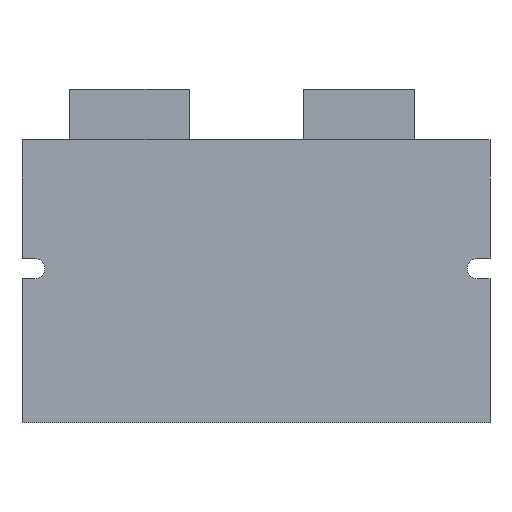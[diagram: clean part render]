
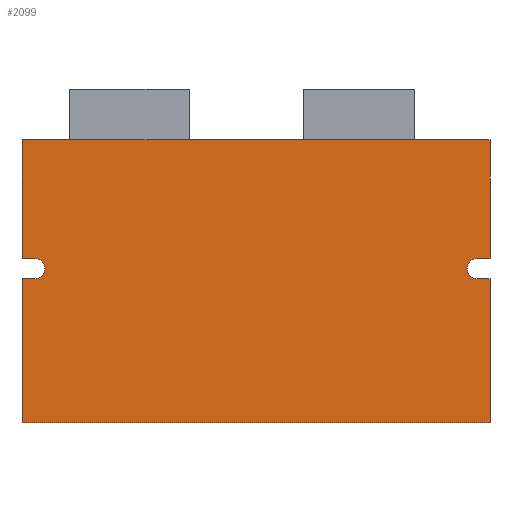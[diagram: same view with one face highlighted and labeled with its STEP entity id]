
A CAD part, front view. The second image highlights one B-rep face of the part: STEP entity #2099.
In plain terms, the highlighted planar face has unit normal (0, -1, 0).
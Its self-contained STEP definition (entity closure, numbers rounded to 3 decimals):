
#12 = ORIENTED_EDGE ( 'NONE', *, *, #531, .F. ) ;
#83 = LINE ( 'NONE', #3169, #863 ) ;
#182 = LINE ( 'NONE', #1688, #2346 ) ;
#238 = CARTESIAN_POINT ( 'NONE',  ( 0., 0., 0. ) ) ;
#266 = VECTOR ( 'NONE', #2094, 1000. ) ;
#279 = CARTESIAN_POINT ( 'NONE',  ( 0., 0., -27.5 ) ) ;
#358 = DIRECTION ( 'NONE',  ( 0., 1., 0. ) ) ;
#372 = VERTEX_POINT ( 'NONE', #1035 ) ;
#374 = ORIENTED_EDGE ( 'NONE', *, *, #3136, .F. ) ;
#386 = AXIS2_PLACEMENT_3D ( 'NONE', #584, #3521, #1774 ) ;
#449 = DIRECTION ( 'NONE',  ( 0., 0., -1. ) ) ;
#531 = EDGE_CURVE ( 'NONE', #556, #3328, #1470, .T. ) ;
#556 = VERTEX_POINT ( 'NONE', #2899 ) ;
#584 = CARTESIAN_POINT ( 'NONE',  ( 0., 0., 0. ) ) ;
#585 = EDGE_CURVE ( 'NONE', #3546, #372, #2163, .T. ) ;
#611 = VERTEX_POINT ( 'NONE', #279 ) ;
#685 = VECTOR ( 'NONE', #1423, 1000. ) ;
#779 = VECTOR ( 'NONE', #3504, 1000. ) ;
#827 = ORIENTED_EDGE ( 'NONE', *, *, #2425, .T. ) ;
#863 = VECTOR ( 'NONE', #1410, 1000. ) ;
#867 = CARTESIAN_POINT ( 'NONE',  ( 0., 0., -23.5 ) ) ;
#907 = EDGE_CURVE ( 'NONE', #1565, #2455, #2796, .T. ) ;
#968 = EDGE_CURVE ( 'NONE', #2455, #372, #2345, .T. ) ;
#1035 = CARTESIAN_POINT ( 'NONE',  ( 92.6, 0., -23.5 ) ) ;
#1224 = CARTESIAN_POINT ( 'NONE',  ( 92.6, 0., -27.5 ) ) ;
#1231 = VECTOR ( 'NONE', #2876, 1000. ) ;
#1257 = CARTESIAN_POINT ( 'NONE',  ( 2.5, 0., -27.5 ) ) ;
#1269 = LINE ( 'NONE', #2646, #2747 ) ;
#1309 = CARTESIAN_POINT ( 'NONE',  ( 92.6, 0., -27.5 ) ) ;
#1324 = VECTOR ( 'NONE', #449, 1000. ) ;
#1400 = CARTESIAN_POINT ( 'NONE',  ( 0., 0., -56. ) ) ;
#1409 = AXIS2_PLACEMENT_3D ( 'NONE', #1667, #3710, #1968 ) ;
#1410 = DIRECTION ( 'NONE',  ( -1., 0., 0. ) ) ;
#1423 = DIRECTION ( 'NONE',  ( -1., 0., 0. ) ) ;
#1469 = EDGE_CURVE ( 'NONE', #3328, #611, #1269, .T. ) ;
#1470 = LINE ( 'NONE', #3473, #685 ) ;
#1559 = VECTOR ( 'NONE', #2114, 1000. ) ;
#1565 = VERTEX_POINT ( 'NONE', #3286 ) ;
#1604 = DIRECTION ( 'NONE',  ( -1., 0., 0. ) ) ;
#1667 = CARTESIAN_POINT ( 'NONE',  ( 90.1, 0., -25.5 ) ) ;
#1680 = CARTESIAN_POINT ( 'NONE',  ( 92.6, 0., 0. ) ) ;
#1688 = CARTESIAN_POINT ( 'NONE',  ( 0., 0., -23.5 ) ) ;
#1690 = CARTESIAN_POINT ( 'NONE',  ( 90.1, 0., -27.5 ) ) ;
#1719 = DIRECTION ( 'NONE',  ( 1., 0., 0. ) ) ;
#1774 = DIRECTION ( 'NONE',  ( 0., 0., -1. ) ) ;
#1819 = ORIENTED_EDGE ( 'NONE', *, *, #3006, .T. ) ;
#1833 = CARTESIAN_POINT ( 'NONE',  ( 0., 0., 0. ) ) ;
#1851 = ORIENTED_EDGE ( 'NONE', *, *, #585, .T. ) ;
#1968 = DIRECTION ( 'NONE',  ( 0., 0., 1. ) ) ;
#2092 = CARTESIAN_POINT ( 'NONE',  ( 90.1, 0., -23.5 ) ) ;
#2094 = DIRECTION ( 'NONE',  ( 1., 0., 0. ) ) ;
#2099 = ADVANCED_FACE ( 'NONE', ( #2672 ), #3235, .T. ) ;
#2114 = DIRECTION ( 'NONE',  ( 0., 0., -1. ) ) ;
#2140 = CARTESIAN_POINT ( 'NONE',  ( 2.5, 0., -25.5 ) ) ;
#2145 = ORIENTED_EDGE ( 'NONE', *, *, #968, .F. ) ;
#2163 = LINE ( 'NONE', #3206, #779 ) ;
#2231 = ORIENTED_EDGE ( 'NONE', *, *, #2730, .F. ) ;
#2276 = ORIENTED_EDGE ( 'NONE', *, *, #3339, .T. ) ;
#2306 = LINE ( 'NONE', #1309, #3763 ) ;
#2345 = LINE ( 'NONE', #2737, #1559 ) ;
#2346 = VECTOR ( 'NONE', #1719, 1000. ) ;
#2423 = DIRECTION ( 'NONE',  ( 0., 0., -1. ) ) ;
#2425 = EDGE_CURVE ( 'NONE', #2700, #3546, #2542, .T. ) ;
#2455 = VERTEX_POINT ( 'NONE', #1680 ) ;
#2494 = ORIENTED_EDGE ( 'NONE', *, *, #3107, .T. ) ;
#2542 = CIRCLE ( 'NONE', #1409, 2. ) ;
#2584 = VERTEX_POINT ( 'NONE', #2635 ) ;
#2635 = CARTESIAN_POINT ( 'NONE',  ( 2.5, 0., -23.5 ) ) ;
#2646 = CARTESIAN_POINT ( 'NONE',  ( 0., 0., 0. ) ) ;
#2672 = FACE_OUTER_BOUND ( 'NONE', #2821, .T. ) ;
#2700 = VERTEX_POINT ( 'NONE', #1690 ) ;
#2730 = EDGE_CURVE ( 'NONE', #3448, #1565, #3583, .T. ) ;
#2737 = CARTESIAN_POINT ( 'NONE',  ( 92.6, 0., 0. ) ) ;
#2747 = VECTOR ( 'NONE', #2957, 1000. ) ;
#2796 = LINE ( 'NONE', #1833, #266 ) ;
#2821 = EDGE_LOOP ( 'NONE', ( #1851, #2145, #3542, #2231, #2276, #1819, #3365, #3319, #12, #374, #2494, #827 ) ) ;
#2834 = AXIS2_PLACEMENT_3D ( 'NONE', #2140, #358, #2423 ) ;
#2843 = CIRCLE ( 'NONE', #2834, 2. ) ;
#2876 = DIRECTION ( 'NONE',  ( 0., 0., 1. ) ) ;
#2899 = CARTESIAN_POINT ( 'NONE',  ( 92.6, 0., -56. ) ) ;
#2957 = DIRECTION ( 'NONE',  ( 0., 0., 1. ) ) ;
#3005 = VERTEX_POINT ( 'NONE', #1224 ) ;
#3006 = EDGE_CURVE ( 'NONE', #2584, #3035, #2843, .T. ) ;
#3035 = VERTEX_POINT ( 'NONE', #1257 ) ;
#3107 = EDGE_CURVE ( 'NONE', #3005, #2700, #2306, .T. ) ;
#3136 = EDGE_CURVE ( 'NONE', #3005, #556, #3674, .T. ) ;
#3169 = CARTESIAN_POINT ( 'NONE',  ( 0., 0., -27.5 ) ) ;
#3206 = CARTESIAN_POINT ( 'NONE',  ( 92.6, 0., -23.5 ) ) ;
#3235 = PLANE ( 'NONE',  #386 ) ;
#3286 = CARTESIAN_POINT ( 'NONE',  ( 0., 0., 0. ) ) ;
#3319 = ORIENTED_EDGE ( 'NONE', *, *, #1469, .F. ) ;
#3328 = VERTEX_POINT ( 'NONE', #1400 ) ;
#3335 = EDGE_CURVE ( 'NONE', #3035, #611, #83, .T. ) ;
#3339 = EDGE_CURVE ( 'NONE', #3448, #2584, #182, .T. ) ;
#3365 = ORIENTED_EDGE ( 'NONE', *, *, #3335, .T. ) ;
#3448 = VERTEX_POINT ( 'NONE', #867 ) ;
#3473 = CARTESIAN_POINT ( 'NONE',  ( 0., 0., -56. ) ) ;
#3504 = DIRECTION ( 'NONE',  ( 1., 0., 0. ) ) ;
#3521 = DIRECTION ( 'NONE',  ( 0., -1., 0. ) ) ;
#3542 = ORIENTED_EDGE ( 'NONE', *, *, #907, .F. ) ;
#3546 = VERTEX_POINT ( 'NONE', #2092 ) ;
#3583 = LINE ( 'NONE', #238, #1231 ) ;
#3672 = CARTESIAN_POINT ( 'NONE',  ( 92.6, 0., 0. ) ) ;
#3674 = LINE ( 'NONE', #3672, #1324 ) ;
#3710 = DIRECTION ( 'NONE',  ( 0., 1., 0. ) ) ;
#3763 = VECTOR ( 'NONE', #1604, 1000. ) ;
